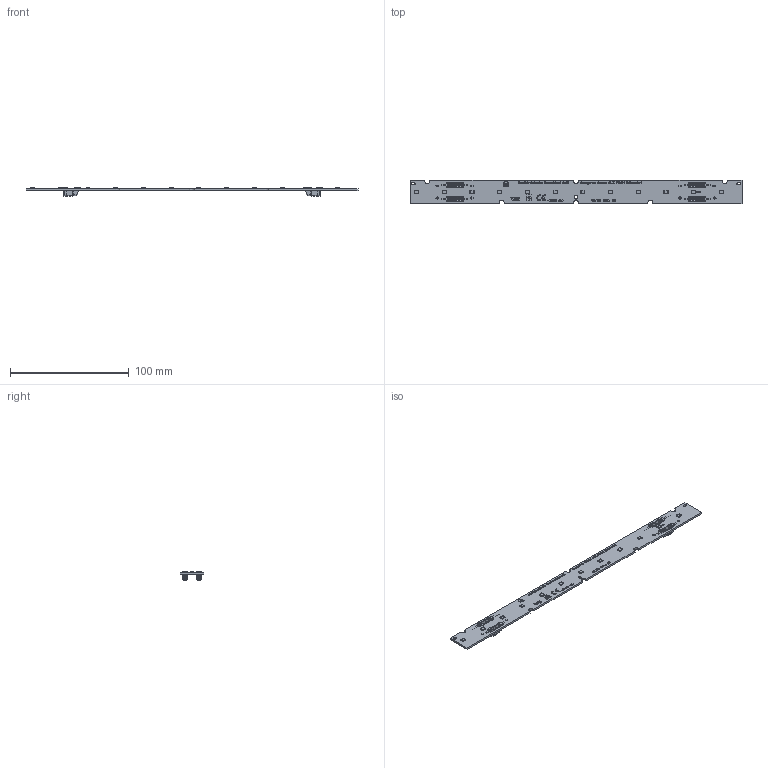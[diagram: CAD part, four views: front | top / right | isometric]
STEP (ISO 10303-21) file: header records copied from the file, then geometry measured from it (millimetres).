
FILE_DESCRIPTION(('Creo Elements/Direct Modeling STEP Export'),'2;1');
FILE_NAME('3D-Model-WU-M-749-BC.stp','2024-12-13T 9:52:52',(''),(''),'PTC Creo Elements/Direct Modeling STEP processor for AP214 (Solid Model)','PTC Creo Elements/Direct Modeling 19.0E 27-Jun-2016 (C) Parametric Technology GmbH','');
FILE_SCHEMA(('AUTOMOTIVE_DESIGN { 1 0 10303 214 1 1 1 1 }'));
Length unit declared in the file: millimetre
Products named in the file (125): p1; Konektor_BJB_46.111.1001.50.2; Konektor_BJB_46.111.1001.50.1.1; Konektor_BJB_46.111.1001.50.1; Konektor_BJB_46.111.1001.50; ______STEP.ASM; _____-0_STEP.PRT.7; 2835PCT_3D_MODEL_STEP.ASM; 2835PCT_3D_MODEL_ORIGIN_CORRECT.ASM; J_SERIES_2835.STEP; 3D-Baza-Adresa_WU-M-749.34; 3D-Baza-Adresa_WU-M-749.16; 3D-Baza-Adresa_WU-M-749.36; 3D-Baza-Adresa_WU-M-749.21; 3D-Baza-Adresa_WU-M-749.27; 3D-Baza-Adresa_WU-M-749.39; 3D-Baza-Adresa_WU-M-749.41; 3D-Baza-Adresa_WU-M-749.26; 3D-Baza-Adresa_WU-M-749.32; 3D-Baza-Adresa_WU-M-749.35; 3D-Baza-Adresa_WU-M-749.49; 3D-Baza-Adresa_WU-M-749.20; 3D-Baza-Adresa_WU-M-749.65; 3D-Baza-Adresa_WU-M-749.31; 3D-Baza-Adresa_WU-M-749.53; 3D-Baza-Adresa_WU-M-749.13; 3D-Baza-Adresa_WU-M-749.29; 3D-Baza-Adresa_WU-M-749.22; 3D-Baza-Adresa_WU-M-749.28; 3D-Baza-Adresa_WU-M-749.33; 3D-Baza-Adresa_WU-M-749.19; 3D-Baza-Adresa_WU-M-749.61; 3D-Baza-Adresa_WU-M-749.64; 3D-Baza-Adresa_WU-M-749.15; 3D-Baza-Adresa_WU-M-749.66; 3D-Baza-Adresa_WU-M-749.45; 3D-Baza-Adresa_WU-M-749.40; 3D-Baza-Adresa_WU-M-749.58; 3D-Baza-Adresa_WU-M-749.67; 3D-Baza-Adresa_WU-M-749.14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
Assembly tree (128 placements, depth 4):
  p1
  Konektor_BJB_46.111.1001.50.2
    Konektor_BJB_46.111.1001.50.2
  Konektor_BJB_46.111.1001.50.1.1
    Konektor_BJB_46.111.1001.50.1.1
  Konektor_BJB_46.111.1001.50.1
    Konektor_BJB_46.111.1001.50.1
  Konektor_BJB_46.111.1001.50
    Konektor_BJB_46.111.1001.50
Bounding box: 279 x 20 x 7.4 mm (x, y, z)
Volume: 9076.5 mm3; surface area: 14821.4 mm2
Topology: 114 solids, 174 shells, 4774 faces, 13130 edges, 8628 vertices
Faces by surface type: plane 3702, cylinder 1048, cone 16, bspline 8
Entity records: 133208 total; most frequent: CARTESIAN_POINT 19592, ORIENTED_EDGE 17930, DIRECTION 17208, EDGE_CURVE 8961, VECTOR 7274, LINE 7274, VERTEX_POINT 5955, AXIS2_PLACEMENT_3D 4967
